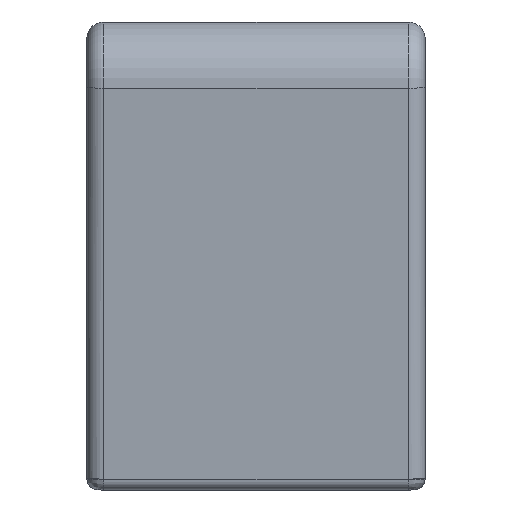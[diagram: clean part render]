
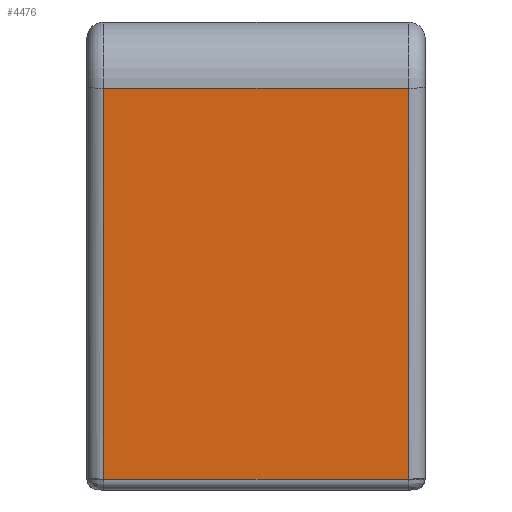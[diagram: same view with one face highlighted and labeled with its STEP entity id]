
A CAD part, left-side view. The second image highlights one B-rep face of the part: STEP entity #4476.
In plain terms, the highlighted planar face has unit normal (-0.998, 0, -0.067).
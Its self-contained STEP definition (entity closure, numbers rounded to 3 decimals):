
#261 = EDGE_CURVE ( 'NONE', #3846, #3867, #748, .T. ) ;
#262 = EDGE_CURVE ( 'NONE', #3867, #3843, #746, .T. ) ;
#263 = EDGE_CURVE ( 'NONE', #3843, #3848, #744, .T. ) ;
#264 = EDGE_CURVE ( 'NONE', #3846, #3848, #742, .T. ) ;
#484 = EDGE_LOOP ( 'NONE', ( #1375, #1376, #1377, #1378 ) ) ;
#741 = VECTOR ( 'NONE', #4387, 1000. ) ;
#742 = LINE ( 'NONE', #4386, #741 ) ;
#743 = VECTOR ( 'NONE', #4385, 1000. ) ;
#744 = LINE ( 'NONE', #4384, #743 ) ;
#745 = VECTOR ( 'NONE', #4383, 1000. ) ;
#746 = LINE ( 'NONE', #4382, #745 ) ;
#747 = VECTOR ( 'NONE', #4381, 1000. ) ;
#748 = LINE ( 'NONE', #4380, #747 ) ;
#1375 = ORIENTED_EDGE ( 'NONE', *, *, #261, .T. ) ;
#1376 = ORIENTED_EDGE ( 'NONE', *, *, #262, .T. ) ;
#1377 = ORIENTED_EDGE ( 'NONE', *, *, #263, .T. ) ;
#1378 = ORIENTED_EDGE ( 'NONE', *, *, #264, .F. ) ;
#1875 = FACE_OUTER_BOUND ( 'NONE', #484, .T. ) ;
#2178 = PLANE ( 'NONE',  #3651 ) ;
#2179 = CARTESIAN_POINT ( 'NONE',  ( -243., 15., -7. ) ) ;
#2180 = DIRECTION ( 'NONE',  ( -0.998, 0., -0.067 ) ) ;
#2181 = DIRECTION ( 'NONE',  ( -0.067, 0., 0.998 ) ) ;
#3651 = AXIS2_PLACEMENT_3D ( 'NONE', #2179, #2180, #2181 ) ;
#3843 = VERTEX_POINT ( 'NONE', #5006 ) ;
#3846 = VERTEX_POINT ( 'NONE', #5009 ) ;
#3848 = VERTEX_POINT ( 'NONE', #5011 ) ;
#3867 = VERTEX_POINT ( 'NONE', #5030 ) ;
#4380 = CARTESIAN_POINT ( 'NONE',  ( -243., 13.5, -7. ) ) ;
#4381 = DIRECTION ( 'NONE',  ( 0.067, 0., -0.998 ) ) ;
#4382 = CARTESIAN_POINT ( 'NONE',  ( -243.063, 15., -6.067 ) ) ;
#4383 = DIRECTION ( 'NONE',  ( 0., -1., 0. ) ) ;
#4384 = CARTESIAN_POINT ( 'NONE',  ( -245.388, -13.5, 28.632 ) ) ;
#4385 = DIRECTION ( 'NONE',  ( -0.067, 0., 0.998 ) ) ;
#4386 = CARTESIAN_POINT ( 'NONE',  ( -245.388, 15., 28.632 ) ) ;
#4387 = DIRECTION ( 'NONE',  ( 0., -1., 0. ) ) ;
#4476 = ADVANCED_FACE ( 'NONE', ( #1875 ), #2178, .T. ) ;
#5006 = CARTESIAN_POINT ( 'NONE',  ( -243.063, -13.5, -6.067 ) ) ;
#5009 = CARTESIAN_POINT ( 'NONE',  ( -245.388, 13.5, 28.632 ) ) ;
#5011 = CARTESIAN_POINT ( 'NONE',  ( -245.388, -13.5, 28.632 ) ) ;
#5030 = CARTESIAN_POINT ( 'NONE',  ( -243.063, 13.5, -6.067 ) ) ;
